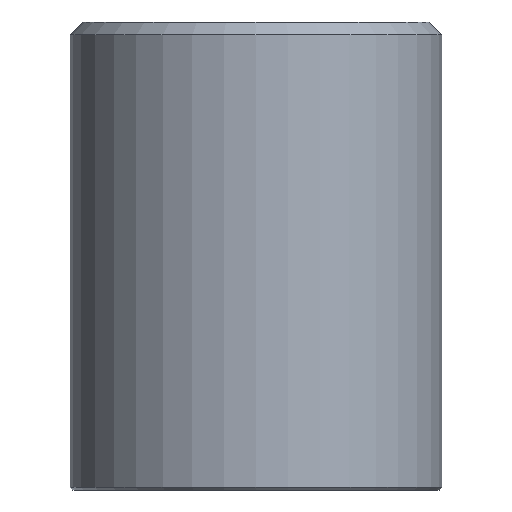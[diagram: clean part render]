
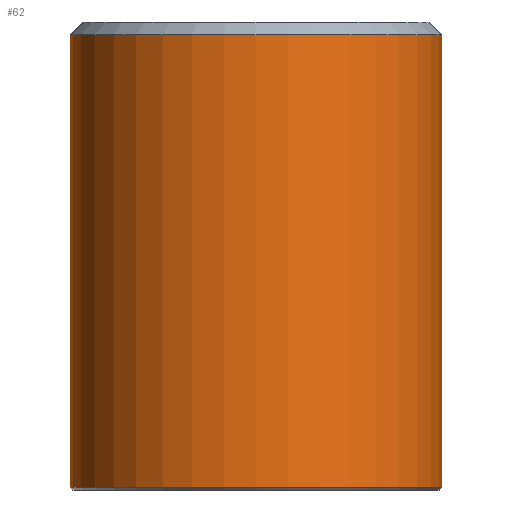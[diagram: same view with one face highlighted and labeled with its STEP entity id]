
A CAD part, front view. The second image highlights one B-rep face of the part: STEP entity #62.
In plain terms, the highlighted cylindrical face has radius 14.5 mm (diameter 29 mm), a full revolution.
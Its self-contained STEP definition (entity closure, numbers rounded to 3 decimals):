
#62 = ADVANCED_FACE( '', ( #131, #132 ), #133, .T. );
#131 = FACE_OUTER_BOUND( '', #194, .T. );
#132 = FACE_OUTER_BOUND( '', #195, .T. );
#133 = CYLINDRICAL_SURFACE( '', #196, 14.5 );
#194 = EDGE_LOOP( '', ( #275 ) );
#195 = EDGE_LOOP( '', ( #276 ) );
#196 = AXIS2_PLACEMENT_3D( '', #277, #278, #279 );
#275 = ORIENTED_EDGE( '', *, *, #303, .T. );
#276 = ORIENTED_EDGE( '', *, *, #301, .T. );
#277 = CARTESIAN_POINT( '', ( 0., 0., 36.5 ) );
#278 = DIRECTION( '', ( 0., 0., 1. ) );
#279 = DIRECTION( '', ( -1., 0., 0. ) );
#301 = EDGE_CURVE( '', #338, #338, #339, .T. );
#303 = EDGE_CURVE( '', #341, #341, #342, .F. );
#338 = VERTEX_POINT( '', #380 );
#339 = CIRCLE( '', #381, 14.5 );
#341 = VERTEX_POINT( '', #383 );
#342 = CIRCLE( '', #384, 14.5 );
#380 = CARTESIAN_POINT( '', ( -14.5, 0., 35.5 ) );
#381 = AXIS2_PLACEMENT_3D( '', #425, #426, #427 );
#383 = CARTESIAN_POINT( '', ( -14.5, 0., 0.2 ) );
#384 = AXIS2_PLACEMENT_3D( '', #428, #429, #430 );
#425 = CARTESIAN_POINT( '', ( 0., 0., 35.5 ) );
#426 = DIRECTION( '', ( 0., 0., -1. ) );
#427 = DIRECTION( '', ( -1., 0., 0. ) );
#428 = CARTESIAN_POINT( '', ( 0., 0., 0.2 ) );
#429 = DIRECTION( '', ( 0., 0., -1. ) );
#430 = DIRECTION( '', ( -1., 0., 0. ) );
